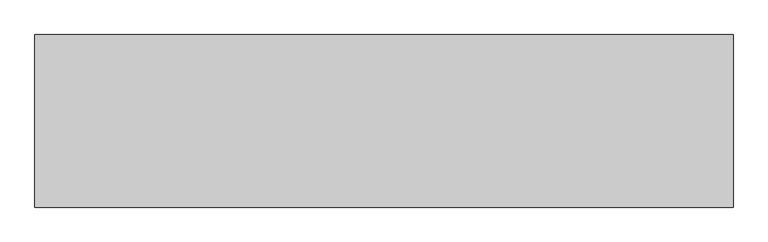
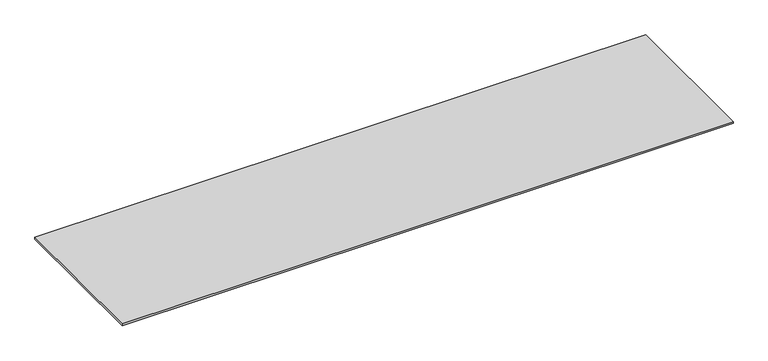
"""IFC4 building model written with IfcOpenShell, lengths in millimetres: proxy geometry, Kitchen_Counter-Tops_Indoor-Material_HI-MACS_Volcanics : VA01_Santa-Ana_12mm_910x3680mm."""

from ifc_helpers import new_model, si_unit, origin, origin_with_axes, place, context, project, spatial, polyline, outline, extrude, source, transform, mapped, element, save


def generic_models_ebb0e17e(model_context):
    return source(origin(), model_context, "Body", "SweptSolid", [
        extrude(outline(polyline([(1840.0, 455.0), (1840.0, -455.0), (-1840.0, -455.0), (-1840.0, 455.0), (1840.0, 455.0)])), origin_with_axes(), (0.0, 0.0, 1.0), 12.0),
    ])


if __name__ == "__main__":
    model = new_model("IFC4")
    model_context = context("Model", 3, world=origin())
    ifc_project = project(units=[si_unit("LENGTHUNIT", "METRE", prefix="MILLI")], contexts=[model_context])
    site = spatial("IfcSite", under=ifc_project)
    building = spatial("IfcBuilding", under=site)
    placement = place(None, origin())
    generic_models_shape = generic_models_ebb0e17e(model_context)
    element("IfcBuildingElementProxy", 1, Name="Kitchen_Counter-Tops_Indoor-Material_HI-MACS_Volcanics : VA01_Santa-Ana_12mm_910x3680mm", ObjectType="Kitchen_Counter-Tops_Indoor-Material_HI-MACS_Volcanics : VA01_Santa-Ana_12mm_910x3680mm", at=placement, inside=building, context=model_context, shape_type="MappedRepresentation", body=[
        mapped(generic_models_shape, transform((0.0, 0.0, 0.0), x_axis=(1.0, 0.0, 0.0), y_axis=(0.0, 1.0, 0.0), z_axis=(0.0, 0.0, 1.0))),
    ])
    save(model, "model.ifc")
